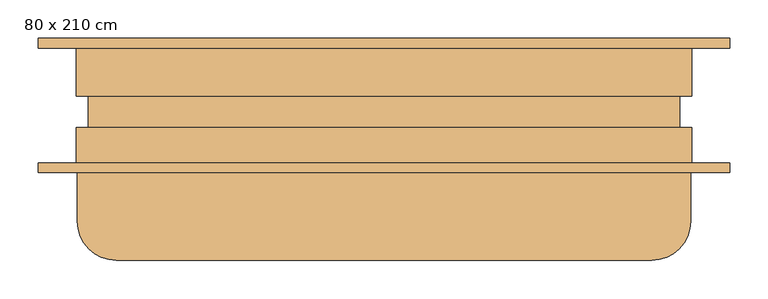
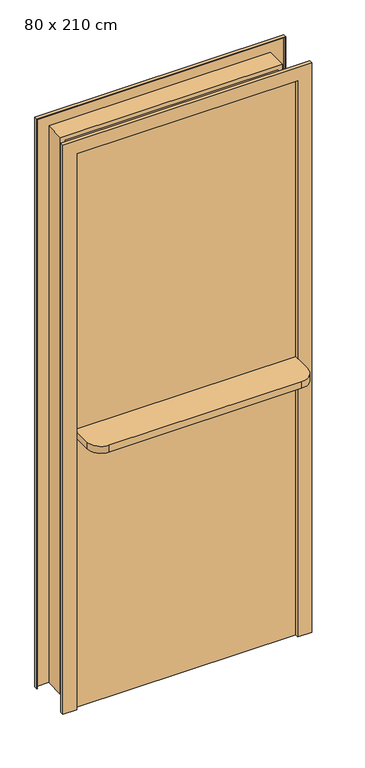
"""IFC4 building model written with IfcOpenShell, lengths in millimetres: door geometry, Dutch_door_-_2_stacked_leaves_2298 : 80 x 210 cm."""

from ifc_helpers import new_model, si_unit, frame, origin, place, context, project, spatial, polyline, circle_curve, outline, extrude, faceted_brep, source, transform, mapped, element, save
from ifc_brep_helpers import plane_surface, cylinder_surface, advanced_brep


def door_80_x_210_cm_e9c14bc5(model_context):
    return source(origin(), model_context, "Body", "SolidModel", [
        faceted_brep([(-450.8, 87.7, 0.0), (-400.0, 87.7, 0.0), (-400.0, 13.9, 0.0), (-384.125, 13.9, 0.0), (-384.125, -30.55, 0.0), (-400.0, -30.55, 0.0), (-400.0, -87.7, 0.0), (-450.8, -87.7, 0.0), (-450.8, -75.0, 0.0), (-449.2125, -75.0, 0.0), (-449.2125, -86.1125, 0.0), (-401.5875, -86.1125, 0.0), (-401.5875, -28.9625, 0.0), (-385.7125, -28.9625, 0.0), (-385.7125, 12.3125, 0.0), (-401.5875, 12.3125, 0.0), (-401.5875, 86.1125, 0.0), (-449.2125, 86.1125, 0.0), (-449.2125, 75.0, 0.0), (-450.8, 75.0, 0.0), (-450.8, 75.0, 2184.4), (-450.8, 87.7, 2184.4), (-449.2125, 75.0, 2182.8125), (449.2125, 75.0, 2182.8125), (449.2125, 75.0, 0.0), (450.8, 75.0, 0.0), (450.8, 75.0, 2184.4), (-449.2125, 86.1125, 2182.8125), (-401.5875, 86.1125, 2135.1875), (401.5875, 86.1125, 2135.1875), (401.5875, 86.1125, 0.0), (449.2125, 86.1125, 0.0), (449.2125, 86.1125, 2182.8125), (-401.5875, 12.3125, 2135.1875), (-385.7125, 12.3125, 2119.3125), (385.7125, 12.3125, 2119.3125), (385.7125, 12.3125, 0.0), (401.5875, 12.3125, 0.0), (401.5875, 12.3125, 2135.1875), (-385.7125, -28.9625, 2119.3125), (-401.5875, -28.9625, 2135.1875), (401.5875, -28.9625, 2135.1875), (401.5875, -28.9625, 0.0), (385.7125, -28.9625, 0.0), (385.7125, -28.9625, 2119.3125), (-401.5875, -86.1125, 2135.1875), (-449.2125, -86.1125, 2182.8125), (449.2125, -86.1125, 2182.8125), (449.2125, -86.1125, 0.0), (401.5875, -86.1125, 0.0), (401.5875, -86.1125, 2135.1875), (-449.2125, -75.0, 2182.8125), (-450.8, -75.0, 2184.4), (450.8, -75.0, 2184.4), (450.8, -75.0, 0.0), (449.2125, -75.0, 0.0), (449.2125, -75.0, 2182.8125), (-450.8, -87.7, 2184.4), (-400.0, -87.7, 2133.6), (400.0, -87.7, 2133.6), (400.0, -87.7, 0.0), (450.8, -87.7, 0.0), (450.8, -87.7, 2184.4), (-400.0, -30.55, 2133.6), (-384.125, -30.55, 2117.725), (384.125, -30.55, 2117.725), (384.125, -30.55, 0.0), (400.0, -30.55, 0.0), (400.0, -30.55, 2133.6), (-384.125, 13.9, 2117.725), (-400.0, 13.9, 2133.6), (400.0, 13.9, 2133.6), (400.0, 13.9, 0.0), (384.125, 13.9, 0.0), (384.125, 13.9, 2117.725), (-400.0, 87.7, 2133.6), (450.8, 87.7, 2184.4), (450.8, 87.7, 0.0), (400.0, 87.7, 0.0), (400.0, 87.7, 2133.6)], [[[0, 1, 2, 3, 4, 5, 6, 7, 8, 9, 10, 11, 12, 13, 14, 15, 16, 17, 18, 19]], [[19, 20, 21, 0]], [[18, 22, 23, 24, 25, 26, 20, 19]], [[17, 27, 22, 18]], [[16, 28, 29, 30, 31, 32, 27, 17]], [[15, 33, 28, 16]], [[14, 34, 35, 36, 37, 38, 33, 15]], [[13, 39, 34, 14]], [[12, 40, 41, 42, 43, 44, 39, 13]], [[11, 45, 40, 12]], [[10, 46, 47, 48, 49, 50, 45, 11]], [[9, 51, 46, 10]], [[8, 52, 53, 54, 55, 56, 51, 9]], [[7, 57, 52, 8]], [[6, 58, 59, 60, 61, 62, 57, 7]], [[5, 63, 58, 6]], [[4, 64, 65, 66, 67, 68, 63, 5]], [[3, 69, 64, 4]], [[2, 70, 71, 72, 73, 74, 69, 3]], [[1, 75, 70, 2]], [[0, 21, 76, 77, 78, 79, 75, 1]], [[26, 25, 77, 76]], [[77, 25, 24, 31, 30, 37, 36, 43, 42, 49, 48, 55, 54, 61, 60, 67, 66, 73, 72, 78]], [[32, 31, 24, 23]], [[38, 37, 30, 29]], [[44, 43, 36, 35]], [[50, 49, 42, 41]], [[56, 55, 48, 47]], [[62, 61, 54, 53]], [[68, 67, 60, 59]], [[74, 73, 66, 65]], [[79, 78, 72, 71]], [[20, 26, 76, 21]], [[27, 32, 23, 22]], [[33, 38, 29, 28]], [[39, 44, 35, 34]], [[45, 50, 41, 40]], [[51, 56, 47, 46]], [[57, 62, 53, 52]], [[63, 68, 59, 58]], [[69, 74, 65, 64]], [[75, 79, 71, 70]]]),
        extrude(outline(polyline([(400.0, -30.55), (400.0, -75.0), (-400.0, -75.0), (-400.0, -30.55), (400.0, -30.55)])), frame((0.0, 0.0, 1066.8), z_axis=(0.0, 0.0, 1.0), x_axis=(1.0, 0.0, 0.0)), (0.0, 0.0, 1.0), 1066.8),
        advanced_brep(
        [(400.0, -30.55, 0.0), (-400.0, -30.55, 0.0), (-400.0, -30.55, 1066.8), (400.0, -30.55, 1066.8), (400.0, -75.0, 0.0), (400.0, -75.0, 1040.6391515), (-400.0, -75.0, 1040.6391515), (-400.0, -75.0, 0.0), (-400.0, -151.3516411, 1066.8), (-349.2, -202.1516411, 1066.8), (349.2, -202.1516411, 1066.8), (400.0, -151.3516411, 1066.8), (-400.0, -151.3516411, 1040.6391515), (400.0, -151.3516411, 1040.6391515), (349.2, -202.1516411, 1040.6391515), (-349.2, -202.1516411, 1040.6391515)],
        [
            (0, 1),
            (1, 2),
            (2, 3),
            (3, 0),
            (4, 5),
            (5, 6),
            (6, 7),
            (7, 4),
            (2, 8),
            (8, 9, circle_curve(frame((-349.2, -151.3516411, 1066.8), z_axis=(0.0, 0.0, 1.0), x_axis=(1.0, 0.0, 0.0)), 50.8)),
            (9, 10),
            (10, 11, circle_curve(frame((349.2, -151.3516411, 1066.8), z_axis=(0.0, 0.0, 1.0), x_axis=(1.0, 0.0, 0.0)), 50.8)),
            (11, 3),
            (1, 7),
            (6, 12),
            (12, 8),
            (0, 4),
            (11, 13),
            (13, 5),
            (13, 14, circle_curve(frame((349.2, -151.3516411, 1040.6391515), z_axis=(0.0, 0.0, -1.0), x_axis=(1.0, 0.0, 0.0)), 50.8)),
            (14, 15),
            (15, 12, circle_curve(frame((-349.2, -151.3516411, 1040.6391515), z_axis=(0.0, 0.0, -1.0), x_axis=(1.0, 0.0, 0.0)), 50.8)),
            (10, 14),
            (9, 15),
        ],
        [
            plane_surface(frame((-400.0, -30.55, 1066.8), z_axis=(0.0, 1.0, 0.0), x_axis=(-1.0, 0.0, 0.0))),
            plane_surface(frame((-400.0, -75.0, 1066.8), z_axis=(0.0, -1.0, 0.0), x_axis=(1.0, 0.0, 0.0))),
            plane_surface(frame((400.0, -30.55, 1066.8), z_axis=(0.0, 0.0, 1.0), x_axis=(0.0, -1.0, 0.0))),
            plane_surface(frame((-400.0, -30.55, 1066.8), z_axis=(-1.0, 0.0, 0.0), x_axis=(0.0, -1.0, 0.0))),
            plane_surface(frame((-400.0, -30.55, 0.0), z_axis=(0.0, 0.0, -1.0), x_axis=(0.0, -1.0, 0.0))),
            plane_surface(frame((400.0, -30.55, 0.0), z_axis=(1.0, 0.0, 0.0), x_axis=(0.0, -1.0, 0.0))),
            plane_surface(frame((400.0, -30.55, 1040.6391515), z_axis=(0.0, 0.0, -1.0), x_axis=(0.0, 1.0, 0.0))),
            cylinder_surface(frame((349.2, -151.3516411, 1040.6391515), z_axis=(0.0, 0.0, 1.0), x_axis=(1.0, 0.0, 0.0)), 50.8),
            plane_surface(frame((349.2, -202.1516411, 1066.8), z_axis=(0.0, -1.0, 0.0), x_axis=(0.0, 0.0, -1.0))),
            cylinder_surface(frame((-349.2, -151.3516411, 1040.6391515), z_axis=(0.0, 0.0, 1.0), x_axis=(1.0, 0.0, 0.0)), 50.8),
        ],
        [
            (0, [[1, 2, 3, 4]]),
            (1, [[5, 6, 7, 8]]),
            (2, [[9, 10, 11, 12, 13, -3]]),
            (3, [[-2, 14, -7, 15, 16, -9]]),
            (4, [[17, -8, -14, -1]]),
            (5, [[18, 19, -5, -17, -4, -13]]),
            (6, [[-15, -6, -19, 20, 21, 22]]),
            (7, [[23, -20, -18, -12]]),
            (8, [[24, -21, -23, -11]]),
            (9, [[-16, -22, -24, -10]]),
        ],
    ),
    ])


if __name__ == "__main__":
    model = new_model("IFC4")
    model_context = context("Model", 3, world=origin())
    ifc_project = project(units=[si_unit("LENGTHUNIT", "METRE", prefix="MILLI")], contexts=[model_context])
    site = spatial("IfcSite", under=ifc_project)
    building = spatial("IfcBuilding", under=site)
    placement = place(None, origin())
    door_80_x_210_cm_shape = door_80_x_210_cm_e9c14bc5(model_context)
    element("IfcDoor", 1, ObjectType="Dutch_door_-_2_stacked_leaves_2298 : 80 x 210 cm", at=placement, inside=building, context=model_context, shape_type="MappedRepresentation", body=[
        mapped(door_80_x_210_cm_shape, transform((0.0, 0.0, 0.0), x_axis=(1.0, 0.0, 0.0), y_axis=(0.0, 1.0, 0.0), z_axis=(0.0, 0.0, 1.0))),
    ])
    save(model, "model.ifc")
